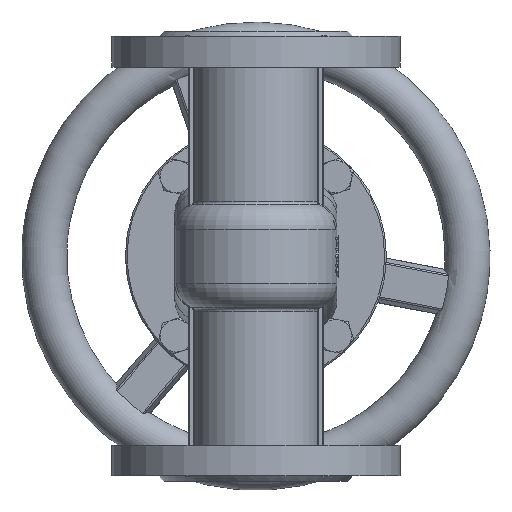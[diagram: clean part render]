
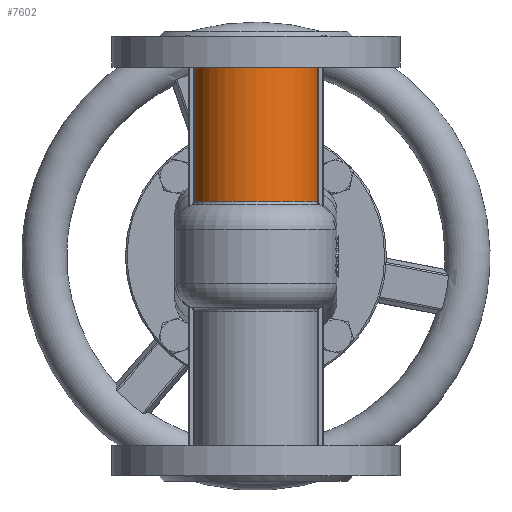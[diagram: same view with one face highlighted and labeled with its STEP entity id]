
A CAD part, front view. The second image highlights one B-rep face of the part: STEP entity #7602.
In plain terms, the highlighted cylindrical face has radius 35 mm (diameter 70 mm), a partial arc.
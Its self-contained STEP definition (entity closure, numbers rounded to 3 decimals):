
#7602=ADVANCED_FACE('',(#16567),#16569,.T.);
#16567=FACE_BOUND('',#16568,.T.);
#16568=EDGE_LOOP('',(#21456,#21457,#21458,#21459));
#16569=CYLINDRICAL_SURFACE('',#16570,35.);
#16570=AXIS2_PLACEMENT_3D('',#16571,#16572,#16573);
#16571=CARTESIAN_POINT('',(0.,0.,62.007));
#16572=DIRECTION('',(0.,0.,1.));
#16573=DIRECTION('',(-0.974,-0.225,0.));
#21456=ORIENTED_EDGE('',*,*,#23856,.F.);
#21457=ORIENTED_EDGE('',*,*,#23875,.F.);
#21458=ORIENTED_EDGE('',*,*,#23685,.T.);
#21459=ORIENTED_EDGE('',*,*,#23876,.T.);
#23685=EDGE_CURVE('',#27124,#27126,#27128,.T.);
#23856=EDGE_CURVE('',#27387,#27389,#27390,.T.);
#23875=EDGE_CURVE('',#27124,#27387,#27418,.T.);
#23876=EDGE_CURVE('',#27126,#27389,#27419,.T.);
#27124=VERTEX_POINT('',#48807);
#27126=VERTEX_POINT('',#48824);
#27128=CIRCLE('',#48841,35.);
#27387=VERTEX_POINT('',#50321);
#27389=VERTEX_POINT('',#50326);
#27390=CIRCLE('',#50327,35.);
#27418=LINE('',#50439,#50440);
#27419=LINE('',#50442,#50443);
#48807=CARTESIAN_POINT('',(-34.1,-7.887,30.492));
#48824=CARTESIAN_POINT('',(34.1,-7.887,30.492));
#48841=AXIS2_PLACEMENT_3D('',#48842,#48843,#48844);
#48842=CARTESIAN_POINT('',(0.,0.,30.492));
#48843=DIRECTION('',(0.,0.,1.));
#48844=DIRECTION('',(-0.974,-0.225,0.));
#50321=CARTESIAN_POINT('',(-34.1,-7.887,105.));
#50326=CARTESIAN_POINT('',(34.1,-7.887,105.));
#50327=AXIS2_PLACEMENT_3D('',#50328,#50329,#50330);
#50328=CARTESIAN_POINT('',(0.,0.,105.));
#50329=DIRECTION('',(0.,0.,1.));
#50330=DIRECTION('',(-0.974,-0.225,0.));
#50439=CARTESIAN_POINT('',(-34.1,-7.887,30.492));
#50440=VECTOR('',#50441,1.);
#50441=DIRECTION('',(0.,0.,1.));
#50442=CARTESIAN_POINT('',(34.1,-7.887,30.492));
#50443=VECTOR('',#50444,1.);
#50444=DIRECTION('',(0.,0.,1.));
